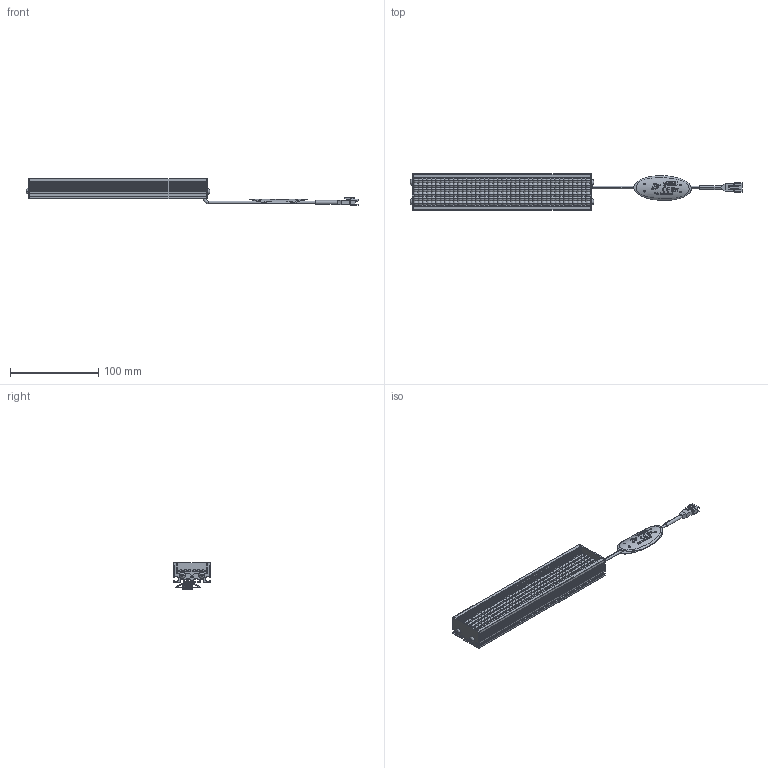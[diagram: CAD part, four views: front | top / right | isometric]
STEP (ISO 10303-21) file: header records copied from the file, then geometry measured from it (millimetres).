
FILE_DESCRIPTION(('STEP AP214'),'1');
FILE_NAME('VBA-20030_DRAWING_3D.step','2023-09-14T01:10:20',(' '),(' '),'Spatial InterOp 3D',' ',' ');
FILE_SCHEMA(('AUTOMOTIVE_DESIGN { 1 0 10303 214 1 1 1 1 }'));
Length unit declared in the file: millimetre
Products named in the file (7): BASE; SIDE PLATE; LED LENS; MXB8146; 3P; CABEL TAG (VS).stp
Assembly tree (13 placements, depth 2):
  (unnamed)
    BASE
    SIDE PLATE  x2
    LED LENS  x4
    MXB8146  x4
    3P
    CABEL TAG (VS).stp
Bounding box: 376 x 41 x 30.5 mm (x, y, z)
Volume: 93102.7 mm3; surface area: 89305.2 mm2
Topology: 14 solids, 14 shells, 1968 faces, 6029 edges, 4145 vertices
Faces by surface type: plane 820, cylinder 648, sphere 480, torus 14, bspline 6
Entity records: 45885 total; most frequent: CARTESIAN_POINT 9981, ORIENTED_EDGE 6106, DIRECTION 5819, EDGE_CURVE 3053, VERTEX_POINT 2155, AXIS2_PLACEMENT_3D 2147, LINE 1525, VECTOR 1525
